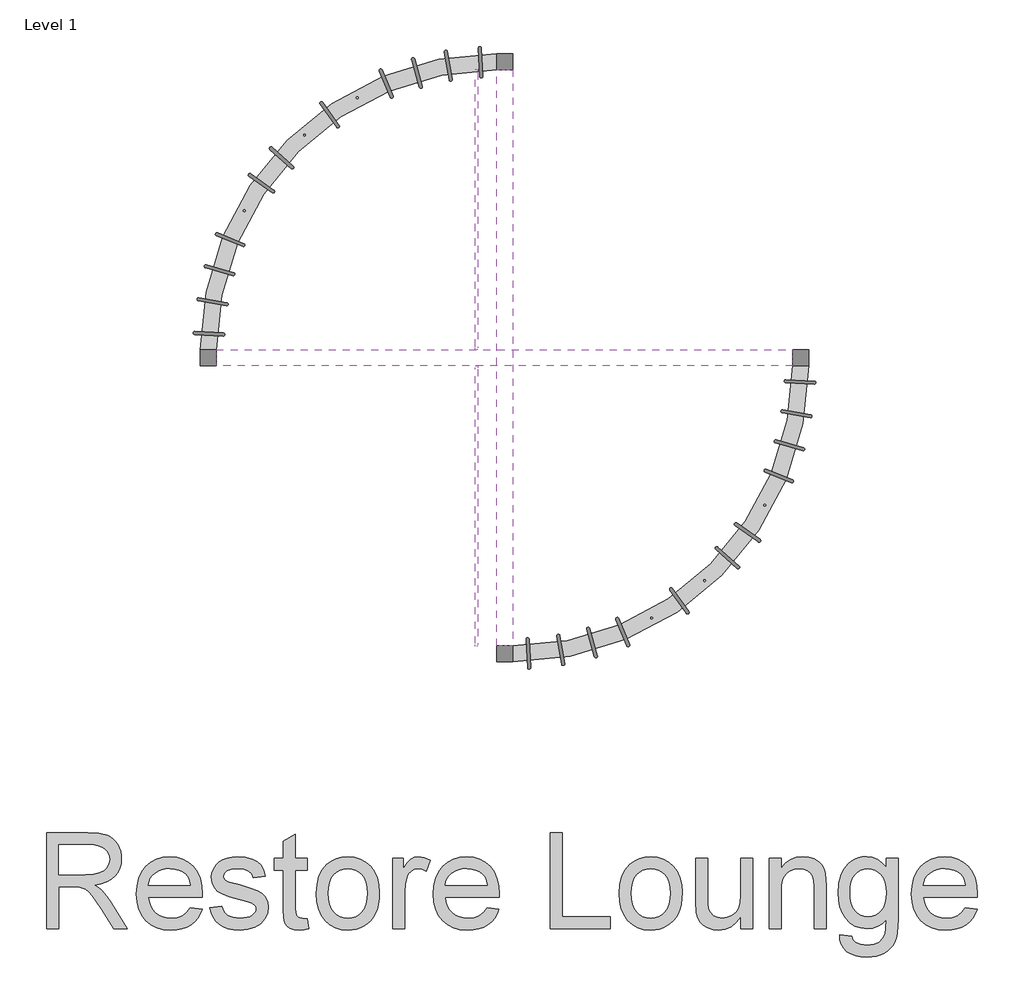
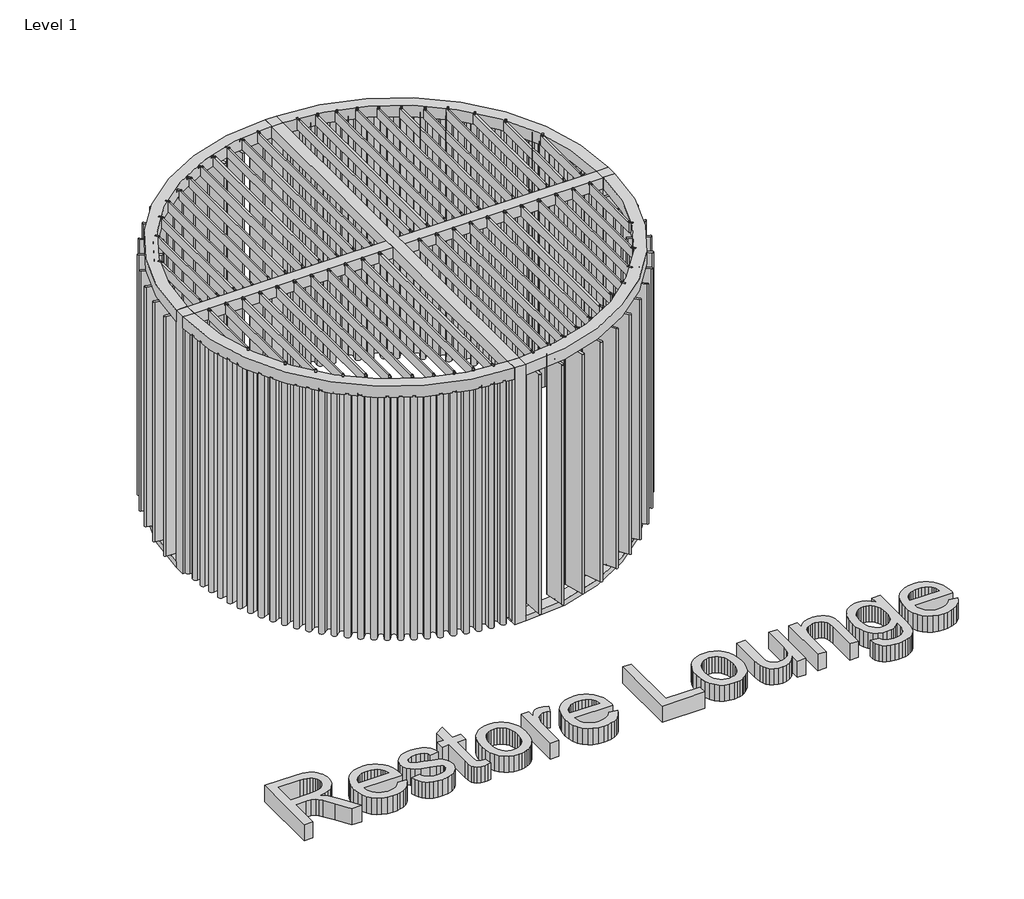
# One storey: 12 furniture elements, 1 proxy.
"""IFC4 building model written with IfcOpenShell, lengths in millimetres."""

from ifc_helpers import new_model, si_unit, origin, origin_with_axes, place, context, project, spatial, polyline, outline, extrude, transform, mapped, element, save
from components import furniture_144w_half_round_df257ffa, furniture_144w_half_round_812f437a, furniture_144w_half_round_42c44f93, furniture_144w_half_round_7459aa78, furniture_72_in_radius_f867d50b, furniture_72_in_radius_closed_drapery_8a0c59e8, haworth_pergola_panel_post_3_way_connector_7bc44f38, haworth_pergola_panel_post_3_way_connector_a8890e0e, haworth_pergola_panel_straighthorizontaltiles_232f749c

model = new_model("IFC4")

# Units and contexts
model_context = context("Model", 3, world=origin())
ifc_project = project(units=[si_unit("LENGTHUNIT", "METRE", prefix="MILLI")], contexts=[model_context])

# Site, building, storey
site = spatial("IfcSite", under=ifc_project)
building = spatial("IfcBuilding", under=site)
storey = spatial("IfcBuildingStorey", under=building, Name="Level 1", Elevation=0.0)

# Proxy
placement = place(None, origin())
element("IfcBuildingElementProxy", 1, Name="24\" Arial", ObjectType="24\" Arial", at=placement, inside=storey, context=model_context, shape_type="SweptSolid", body=[
    extrude(outline(polyline([(-2907.6639762, -3624.0191009), (-2907.6639762, -3014.8849128), (-2645.1830577, -3014.8849128), (-2574.6366635, -3018.9931481), (-2523.3116058, -3031.3178541), (-2503.5047064, -3041.1144153), (-2485.798398, -3054.0711575), (-2470.1926805, -3070.1880808), (-2456.6875539, -3089.4651851), (-2445.7895767, -3110.8661169), (-2438.0053073, -3133.3545228), (-2433.3347456, -3156.9304027), (-2431.7778917, -3181.5937567), (-2434.3571571, -3212.8795489), (-2442.0949533, -3241.6000177), (-2454.9912803, -3267.755163), (-2473.0461381, -3291.344985), (-2496.4918929, -3311.6166168), (-2525.5609111, -3327.8171919), (-2560.2531925, -3339.9467103), (-2600.5687373, -3348.0051719), (-2575.4731821, -3364.4009346), (-2557.2928465, -3380.5736258), (-2526.1000008, -3417.5663331), (-2495.5763699, -3458.9461153), (-2394.0044337, -3624.0191009), (-2482.4895026, -3624.0191009), (-2561.7542785, -3497.7605741), (-2619.0093231, -3414.1830805), (-2640.2940718, -3389.812508), (-2659.2365686, -3374.6994069), (-2695.4485254, -3360.1997528), (-2739.6167026, -3357.5228936), (-2831.5222027, -3357.5228936), (-2831.5222027, -3624.0191009), (-2907.6639762, -3624.0191009)]), holes=[polyline([(-2831.5222027, -3281.3811201), (-2661.0954987, -3281.3811201), (-2612.1498713, -3278.6856715), (-2574.171931, -3270.599326), (-2545.5815874, -3256.5829936), (-2524.7987498, -3236.0975848), (-2512.1394364, -3211.3180477), (-2507.9196652, -3184.4193304), (-2509.931957, -3164.9470384), (-2515.9688322, -3147.2779086), (-2526.0302909, -3131.4119409), (-2540.1163331, -3117.3491353), (-2558.5522716, -3105.8330639), (-2581.663419, -3097.6072985), (-2609.4497755, -3092.6718393), (-2641.9113409, -3091.0266863), (-2831.5222027, -3091.0266863), (-2831.5222027, -3281.3811201)])]), origin_with_axes(), (0.0, 0.0, 1.0), 152.4),
    extrude(outline(polyline([(-1994.8549804, -3490.7709972), (-1920.2003509, -3500.2887189), (-1931.6467125, -3530.1896083), (-1947.0990682, -3556.5399413), (-1966.5574182, -3579.3397179), (-1990.0217623, -3598.5889383), (-2017.2504398, -3613.8786376), (-2048.0017896, -3624.7998515), (-2082.2758118, -3631.3525798), (-2120.0725064, -3633.5368226), (-2167.3172128, -3629.767842), (-2209.412683, -3618.4609001), (-2246.3589171, -3599.6159971), (-2278.1559151, -3573.2331328), (-2303.7254974, -3540.0465847), (-2321.9894849, -3500.79063), (-2332.9478773, -3455.4652689), (-2336.6006748, -3404.0705012), (-2332.9106987, -3350.9329867), (-2321.8407705, -3304.0972449), (-2303.39089, -3263.5632758), (-2277.5610574, -3229.3310796), (-2245.8477114, -3202.1349334), (-2209.7472904, -3182.7091147), (-2169.2597946, -3171.0536235), (-2124.385224, -3167.1684598), (-2080.9559715, -3171.0443289), (-2041.6814275, -3182.6719361), (-2006.5615922, -3202.0512816), (-1975.5964654, -3229.1823652), (-1950.3196645, -3263.3402042), (-1932.2648067, -3303.7998161), (-1921.431892, -3350.5612007), (-1917.8209205, -3403.624358), (-1918.2670637, -3424.1469454), (-2260.4589013, -3424.1469454), (-2256.0485898, -3454.5311565), (-2247.2790875, -3481.1417397), (-2234.1503942, -3503.978695), (-2216.6625101, -3523.0420223), (-2195.7820787, -3538.0714715), (-2172.4757436, -3548.8067924), (-2146.7435048, -3555.2479849), (-2118.5853624, -3557.3950491), (-2078.060688, -3553.4169388), (-2043.9307328, -3541.4826081), (-2016.195497, -3520.8484849), (-1994.8549804, -3490.7709972)]), holes=[polyline([(-2260.4589013, -3348.0051719), (-1993.962694, -3348.0051719), (-2004.2611663, -3307.7779263), (-2013.1189678, -3291.9584319), (-2024.4491463, -3279.0016896), (-2045.2133946, -3263.3866775), (-2068.8403951, -3252.2330974), (-2095.3301478, -3245.5409493), (-2124.6826528, -3243.3102333), (-2151.4558924, -3245.0901588), (-2176.0077106, -3250.4299353), (-2198.3381074, -3259.3295627), (-2218.4470829, -3271.7890412), (-2235.3215201, -3287.2321023), (-2247.9483023, -3305.0824778), (-2256.3274293, -3325.3401677), (-2260.4589013, -3348.0051719)])]), origin_with_axes(), (0.0, 0.0, 1.0), 152.4),
    extrude(outline(polyline([(-1870.232312, -3490.7709972), (-1794.0905385, -3481.2532755), (-1789.4896867, -3498.6156819), (-1782.0818506, -3513.8217295), (-1771.8670301, -3526.8714182), (-1758.8452254, -3537.7647481), (-1742.9792577, -3546.3530048), (-1724.2319484, -3552.4874738), (-1678.0933054, -3557.3950491), (-1632.5123414, -3552.8964384), (-1614.7967383, -3547.2731751), (-1600.4643879, -3539.4006065), (-1581.5033017, -3519.8446627), (-1576.7630301, -3508.8955649), (-1575.1829396, -3497.1657165), (-1576.7723248, -3486.8858335), (-1581.5404803, -3477.7584871), (-1600.6131023, -3462.9614042), (-1629.1290887, -3453.2949681), (-1678.9855918, -3441.2491016), (-1748.4723959, -3421.1540681), (-1793.6443953, -3403.996144), (-1822.6622929, -3385.2767187), (-1843.6867914, -3360.4971816), (-1856.4576406, -3331.2376231), (-1860.7145903, -3299.0781338), (-1857.2941591, -3269.5769145), (-1847.0328654, -3242.3435897), (-1830.8601742, -3218.456339), (-1809.7055506, -3198.9933417), (-1788.6810521, -3186.7429929), (-1761.299013, -3176.4631099), (-1729.6414348, -3169.4921223), (-1695.7903192, -3167.1684598), (-1646.2312449, -3170.9049091), (-1603.1412471, -3182.1142571), (-1568.4907916, -3199.6997351), (-1544.2503441, -3222.5645743), (-1528.1891888, -3252.4004011), (-1518.0766095, -3290.8988418), (-1594.218383, -3300.4165634), (-1603.8290512, -3276.4549555), (-1622.8459053, -3258.404745), (-1651.4548383, -3247.0838612), (-1689.8417431, -3243.3102333), (-1733.5637771, -3246.9165575), (-1762.7117998, -3257.7355302), (-1779.1075626, -3273.3505424), (-1784.5728168, -3291.344985), (-1782.3049222, -3303.0562441), (-1775.5012383, -3313.5034308), (-1763.8643364, -3322.8352595), (-1747.0967877, -3330.3081581), (-1681.5137366, -3346.5180279), (-1614.2390593, -3366.4085791), (-1569.754864, -3382.3581986), (-1540.2350553, -3399.4975334), (-1517.8535379, -3422.9572302), (-1503.7442591, -3452.8116463), (-1499.0411661, -3489.1351388), (-1504.5621883, -3526.6855252), (-1521.1252547, -3562.0051955), (-1548.0983293, -3592.3243441), (-1584.8493757, -3614.8731652), (-1629.2406245, -3628.8709082), (-1679.1343062, -3633.5368226), (-1720.1144184, -3631.2875173), (-1755.9081159, -3624.5396013), (-1786.5153987, -3613.2930747), (-1811.9362667, -3597.5479374), (-1832.700515, -3577.3785468), (-1849.3379386, -3552.8592598), (-1861.8485376, -3523.9900766), (-1870.232312, -3490.7709972)])), origin_with_axes(), (0.0, 0.0, 1.0), 152.4),
    extrude(outline(polyline([(-1251.5804022, -3560.5180515), (-1242.0626805, -3626.2498169), (-1272.2145254, -3631.7150712), (-1299.0202962, -3633.5368226), (-1335.5668604, -3630.3766416), (-1362.8187744, -3620.8960985), (-1382.0772894, -3606.2849085), (-1394.6436563, -3587.7327869), (-1401.558876, -3555.8707264), (-1403.8639492, -3501.3297197), (-1403.8639492, -3252.827955), (-1460.9702794, -3252.827955), (-1460.9702794, -3176.6861815), (-1403.8639492, -3176.6861815), (-1403.8639492, -3067.9759541), (-1327.7221757, -3023.2129192), (-1327.7221757, -3176.6861815), (-1251.5804022, -3176.6861815), (-1251.5804022, -3252.827955), (-1327.7221757, -3252.827955), (-1327.7221757, -3499.0990037), (-1323.7068869, -3538.3596057), (-1310.6943767, -3552.2644022), (-1299.7081003, -3556.1123874), (-1284.7437137, -3557.3950491), (-1251.5804022, -3560.5180515)])), origin_with_axes(), (0.0, 0.0, 1.0), 152.4),
    extrude(outline(polyline([(-1194.474072, -3400.3526412), (-1190.3565421, -3342.4190872), (-1178.0039521, -3292.4975216), (-1157.4163022, -3250.5879443), (-1128.5935922, -3216.6903555), (-1099.5756947, -3195.0245261), (-1067.5463305, -3179.5489337), (-1032.5054996, -3170.2635783), (-994.4532022, -3167.1684598), (-952.4460311, -3170.9374404), (-914.4634435, -3182.2443822), (-880.5054394, -3201.0892853), (-850.5720188, -3227.4721496), (-826.1410311, -3260.5006886), (-808.6903255, -3299.2826161), (-798.2199022, -3343.817932), (-794.7297611, -3394.1066363), (-796.272673, -3434.863677), (-800.9014087, -3471.0291604), (-808.6159683, -3502.6030868), (-819.4163517, -3529.585456), (-833.1677865, -3552.8917911), (-849.7355003, -3573.4376151), (-869.1194931, -3591.2229281), (-891.3197648, -3606.2477299), (-915.471913, -3618.186708), (-940.7115354, -3626.7145494), (-967.0386317, -3631.8312543), (-994.4532022, -3633.5368226), (-1037.0738201, -3629.7817839), (-1075.4096044, -3618.516668), (-1109.460555, -3599.7414749), (-1139.2266719, -3573.4562044), (-1163.3974095, -3540.1069999), (-1180.662222, -3500.1400045), (-1191.0211095, -3453.5552183), (-1194.474072, -3400.3526412)]), holes=[polyline([(-1118.3322985, -3400.2039268), (-1116.1294665, -3437.1362189), (-1109.5209702, -3469.1144625), (-1098.5068099, -3496.1386577), (-1083.0869854, -3518.2088043), (-1064.3303815, -3535.3527864), (-1043.305883, -3547.5984879), (-1020.0134899, -3554.9459088), (-994.4532022, -3557.3950491), (-969.0230395, -3554.9319668), (-945.8235929, -3547.54272), (-924.8548623, -3535.2273086), (-906.1168477, -3517.9857327), (-890.6970232, -3495.6971618), (-879.6828629, -3468.2407654), (-873.0743667, -3435.6165436), (-870.8715346, -3397.8244964), (-873.0883086, -3362.0633301), (-879.7386308, -3330.921605), (-890.822501, -3304.399321), (-906.3399193, -3282.4964781), (-925.1476438, -3265.352496), (-946.1024324, -3253.1067945), (-969.2042852, -3245.7593736), (-994.4532022, -3243.3102333), (-1020.0134899, -3245.750079), (-1043.305883, -3253.0696159), (-1064.3303815, -3265.2688441), (-1083.0869854, -3282.3477637), (-1098.5068099, -3304.3528478), (-1109.5209702, -3331.3305696), (-1116.1294665, -3363.2809293), (-1118.3322985, -3400.2039268)])]), origin_with_axes(), (0.0, 0.0, 1.0), 152.4),
    extrude(outline(polyline([(-709.0702659, -3624.0191009), (-709.0702659, -3176.6861815), (-642.4462141, -3176.6861815), (-642.4462141, -3242.8640901), (-617.8339806, -3204.4957745), (-595.1550344, -3181.8911855), (-572.401731, -3170.8491412), (-547.566426, -3167.1684598), (-509.6442536, -3173.0426786), (-471.1272236, -3190.6653352), (-496.5573863, -3258.9252455), (-523.3259785, -3247.2139863), (-550.0945708, -3243.3102333), (-572.8292849, -3247.0652719), (-593.14739, -3258.3303878), (-609.561742, -3276.2504732), (-620.585197, -3299.9704202), (-629.8426685, -3342.502739), (-632.9284924, -3388.9016323), (-632.9284924, -3624.0191009), (-709.0702659, -3624.0191009)])), origin_with_axes(), (0.0, 0.0, 1.0), 152.4),
    extrude(outline(polyline([(-110.3460858, -3490.7709972), (-35.6914563, -3500.2887189), (-47.1378179, -3530.1896083), (-62.5901737, -3556.5399413), (-82.0485236, -3579.3397179), (-105.5128678, -3598.5889383), (-132.7415452, -3613.8786376), (-163.492895, -3624.7998515), (-197.7669172, -3631.3525798), (-235.5636118, -3633.5368226), (-282.8083182, -3629.767842), (-324.9037885, -3618.4609001), (-361.8500226, -3599.6159971), (-393.6470205, -3573.2331328), (-419.2166029, -3540.0465847), (-437.4805903, -3500.79063), (-448.4389828, -3455.4652689), (-452.0917803, -3404.0705012), (-448.4018042, -3350.9329867), (-437.3318759, -3304.0972449), (-418.8819955, -3263.5632758), (-393.0521629, -3229.3310796), (-361.3388168, -3202.1349334), (-325.2383959, -3182.7091147), (-284.7509001, -3171.0536235), (-239.8763295, -3167.1684598), (-196.4470769, -3171.0443289), (-157.172533, -3182.6719361), (-122.0526976, -3202.0512816), (-91.0875709, -3229.1823652), (-65.8107699, -3263.3402042), (-47.7559121, -3303.7998161), (-36.9229975, -3350.5612007), (-33.3120259, -3403.624358), (-33.7581691, -3424.1469454), (-375.9500067, -3424.1469454), (-371.5396953, -3454.5311565), (-362.7701929, -3481.1417397), (-349.6414997, -3503.978695), (-332.1536155, -3523.0420223), (-311.2731841, -3538.0714715), (-287.966849, -3548.8067924), (-262.2346102, -3555.2479849), (-234.0764678, -3557.3950491), (-193.5517934, -3553.4169388), (-159.4218383, -3541.4826081), (-131.6866024, -3520.8484849), (-110.3460858, -3490.7709972)]), holes=[polyline([(-375.9500067, -3348.0051719), (-109.4537994, -3348.0051719), (-119.7522717, -3307.7779263), (-128.6100733, -3291.9584319), (-139.9402517, -3279.0016896), (-160.7045, -3263.3866775), (-184.3315005, -3252.2330974), (-210.8212533, -3245.5409493), (-240.1737583, -3243.3102333), (-266.9469978, -3245.0901588), (-291.498816, -3250.4299353), (-313.8292129, -3259.3295627), (-333.9381883, -3271.7890412), (-350.8126256, -3287.2321023), (-363.4394077, -3305.0824778), (-371.8185348, -3325.3401677), (-375.9500067, -3348.0051719)])]), origin_with_axes(), (0.0, 0.0, 1.0), 152.4),
    extrude(outline(polyline([(290.2905115, -3624.0191009), (290.2905115, -3014.8849128), (366.4322851, -3014.8849128), (366.4322851, -3547.8773274), (670.9993791, -3547.8773274), (670.9993791, -3624.0191009), (290.2905115, -3624.0191009)])), origin_with_axes(), (0.0, 0.0, 1.0), 152.4),
    extrude(outline(polyline([(728.1057093, -3400.3526412), (732.2232392, -3342.4190872), (744.5758292, -3292.4975216), (765.1634792, -3250.5879443), (793.9861891, -3216.6903555), (823.0040867, -3195.0245261), (855.0334509, -3179.5489337), (890.0742817, -3170.2635783), (928.1265791, -3167.1684598), (970.1337502, -3170.9374404), (1008.1163378, -3182.2443822), (1042.0743419, -3201.0892853), (1072.0077625, -3227.4721496), (1096.4387503, -3260.5006886), (1113.8894558, -3299.2826161), (1124.3598791, -3343.817932), (1127.8500202, -3394.1066363), (1126.3071083, -3434.863677), (1121.6783726, -3471.0291604), (1113.963813, -3502.6030868), (1103.1634296, -3529.585456), (1089.4119948, -3552.8917911), (1072.844281, -3573.4376151), (1053.4602882, -3591.2229281), (1031.2600165, -3606.2477299), (1007.1078683, -3618.186708), (981.8682459, -3626.7145494), (955.5411496, -3631.8312543), (928.1265791, -3633.5368226), (885.5059612, -3629.7817839), (847.1701769, -3618.516668), (813.1192263, -3599.7414749), (783.3531094, -3573.4562044), (759.1823718, -3540.1069999), (741.9175593, -3500.1400045), (731.5586718, -3453.5552183), (728.1057093, -3400.3526412)]), holes=[polyline([(804.2474828, -3400.2039268), (806.4503148, -3437.1362189), (813.0588111, -3469.1144625), (824.0729714, -3496.1386577), (839.4927959, -3518.2088043), (858.2493998, -3535.3527864), (879.2738983, -3547.5984879), (902.5662914, -3554.9459088), (928.1265791, -3557.3950491), (953.5567418, -3554.9319668), (976.7561884, -3547.54272), (997.724919, -3535.2273086), (1016.4629336, -3517.9857327), (1031.8827581, -3495.6971618), (1042.8969184, -3468.2407654), (1049.5054146, -3435.6165436), (1051.7082467, -3397.8244964), (1049.4914727, -3362.0633301), (1042.8411505, -3330.921605), (1031.7572803, -3304.399321), (1016.239862, -3282.4964781), (997.4321375, -3265.352496), (976.4773489, -3253.1067945), (953.3754961, -3245.7593736), (928.1265791, -3243.3102333), (902.5662914, -3245.750079), (879.2738983, -3253.0696159), (858.2493998, -3265.2688441), (839.4927959, -3282.3477637), (824.0729714, -3304.3528478), (813.0588111, -3331.3305696), (806.4503148, -3363.2809293), (804.2474828, -3400.2039268)])]), origin_with_axes(), (0.0, 0.0, 1.0), 152.4),
    extrude(outline(polyline([(1499.0411661, -3624.0191009), (1499.0411661, -3547.1337554), (1471.4918233, -3584.9350973), (1439.4066912, -3611.9360558), (1402.7857698, -3628.1366309), (1361.6290592, -3633.5368226), (1324.5434054, -3629.7446053), (1290.0230749, -3618.3679536), (1261.0609453, -3601.2657975), (1240.6498937, -3580.2970669), (1226.9124009, -3554.8297256), (1217.9709475, -3524.2317376), (1213.5095154, -3453.4436825), (1213.5095154, -3176.6861815), (1289.6512889, -3176.6861815), (1289.6512889, -3417.6035117), (1290.8038256, -3465.7869778), (1294.2614354, -3495.2324293), (1305.3592476, -3521.1273244), (1324.3761017, -3540.8133933), (1350.0479252, -3553.2496351), (1381.1106458, -3557.3950491), (1413.9579392, -3553.1566886), (1444.6860524, -3540.4416073), (1470.0232685, -3520.420931), (1486.6978708, -3494.2657857), (1495.9553423, -3458.4442042), (1499.0411661, -3409.4242197), (1499.0411661, -3176.6861815), (1575.1829396, -3176.6861815), (1575.1829396, -3624.0191009), (1499.0411661, -3624.0191009)])), origin_with_axes(), (0.0, 0.0, 1.0), 152.4),
    extrude(outline(polyline([(1679.8778782, -3624.0191009), (1679.8778782, -3176.6861815), (1756.0196517, -3176.6861815), (1756.0196517, -3239.1462301), (1782.4722259, -3207.6559556), (1814.2413399, -3185.1629024), (1851.3269937, -3171.6670704), (1893.7291874, -3167.1684598), (1931.2609845, -3170.7933733), (1965.6326005, -3181.6681139), (1994.2973014, -3198.4356627), (2014.708353, -3219.7390007), (2028.5573816, -3245.52236), (2037.5360136, -3275.7299728), (2041.5513024, -3349.3436015), (2041.5513024, -3624.0191009), (1965.4095289, -3624.0191009), (1965.4095289, -3359.6048952), (1963.2159915, -3320.2327574), (1956.6353792, -3292.2372714), (1944.4965662, -3272.1794165), (1925.6284265, -3256.6201722), (1901.443747, -3246.637718), (1873.3553144, -3243.3102333), (1850.2348723, -3245.178458), (1828.7595833, -3250.783132), (1808.9294474, -3260.1242553), (1790.7444645, -3273.201828), (1775.5523589, -3291.502994), (1764.7008549, -3316.5148974), (1758.1899525, -3348.2375381), (1756.0196517, -3386.6709163), (1756.0196517, -3624.0191009), (1679.8778782, -3624.0191009)])), origin_with_axes(), (0.0, 0.0, 1.0), 152.4),
    extrude(outline(polyline([(2127.2107976, -3662.0899876), (2203.3525712, -3671.6077093), (2211.7549348, -3695.4020136), (2228.0391618, -3711.7605977), (2260.0499367, -3724.475679), (2301.9502193, -3728.7140395), (2346.6388969, -3723.918), (2364.6891074, -3717.9229507), (2379.8765656, -3709.5298817), (2402.9272978, -3686.4791495), (2417.055166, -3655.6952684), (2421.1819906, -3622.9409215), (2422.26017, -3566.9127708), (2396.9229539, -3591.8967902), (2368.6486283, -3609.7425184), (2337.4371933, -3620.4499553), (2303.2886489, -3624.0191009), (2261.541728, -3619.8643923), (2224.7860343, -3607.4002665), (2193.0215676, -3586.6267236), (2166.248328, -3557.5437635), (2145.0054052, -3522.651647), (2129.831889, -3484.4506352), (2120.7277792, -3442.9407279), (2117.6930759, -3398.1219252), (2123.1397409, -3336.6471095), (2139.4797357, -3280.1170477), (2151.5906648, -3254.6264698), (2166.1367922, -3232.2124211), (2183.1181179, -3212.8749016), (2202.5346419, -3196.6139113), (2224.0749935, -3183.7315262), (2247.4278019, -3174.5298227), (2272.593067, -3169.0088005), (2299.5707889, -3167.1684598), (2335.1785933, -3171.332463), (2367.4960917, -3183.8244727), (2396.5232839, -3204.6444889), (2422.26017, -3233.7925116), (2422.26017, -3176.6861815), (2498.4019435, -3176.6861815), (2498.4019435, -3562.8974819), (2493.1969395, -3652.0703549), (2486.6906844, -3685.2383137), (2477.5819273, -3710.7939541), (2465.6522439, -3731.4048407), (2450.68321, -3749.738538), (2432.6748254, -3765.795046), (2411.6270903, -3779.5743648), (2387.7537816, -3790.6349984), (2361.2686761, -3798.5354509), (2332.171774, -3803.2757225), (2300.4630753, -3804.855813), (2263.1589971, -3802.6297443), (2229.6192523, -3795.9515382), (2199.8438407, -3784.8211947), (2173.8327625, -3769.2387139), (2152.8222059, -3749.1855063), (2138.0483596, -3724.6429827), (2129.5112235, -3695.6111432), (2127.2107976, -3662.0899876)]), holes=[polyline([(2193.8348495, -3392.9169211), (2195.8657305, -3430.5649013), (2201.9583736, -3462.7569219), (2212.1127789, -3489.4929828), (2226.3289462, -3510.7730842), (2243.612348, -3527.0061906), (2262.9684568, -3538.6012666), (2284.3972726, -3545.5583122), (2307.8987953, -3547.8773274), (2331.1679518, -3545.5722542), (2352.4945265, -3538.6570345), (2371.8785192, -3527.1316684), (2389.3199301, -3510.9961558), (2403.7312851, -3489.9251841), (2414.02511, -3463.5934404), (2420.201405, -3432.0009247), (2422.26017, -3395.1476371), (2420.1409898, -3359.8326141), (2413.7834491, -3329.1370322), (2403.187548, -3303.0608914), (2388.3532865, -3281.6041917), (2370.5354423, -3264.8505849), (2350.9887931, -3252.8837229), (2329.7133391, -3245.7036057), (2306.7090801, -3243.3102333), (2284.0905491, -3245.6664271), (2263.228707, -3252.7350085), (2244.1235538, -3264.5159775), (2226.7750894, -3281.0093341), (2212.3637344, -3302.140721), (2202.0699094, -3327.8357812), (2195.8936145, -3358.0945146), (2193.8348495, -3392.9169211)])]), origin_with_axes(), (0.0, 0.0, 1.0), 152.4),
    extrude(outline(polyline([(2925.8071332, -3490.7709972), (3000.4617627, -3500.2887189), (2989.0154011, -3530.1896083), (2973.5630453, -3556.5399413), (2954.1046953, -3579.3397179), (2930.6403512, -3598.5889383), (2903.4116738, -3613.8786376), (2872.660324, -3624.7998515), (2838.3863018, -3631.3525798), (2800.5896072, -3633.5368226), (2753.3449008, -3629.767842), (2711.2494305, -3618.4609001), (2674.3031964, -3599.6159971), (2642.5061985, -3573.2331328), (2616.9366161, -3540.0465847), (2598.6726287, -3500.79063), (2587.7142362, -3455.4652689), (2584.0614387, -3404.0705012), (2587.7514148, -3350.9329867), (2598.8213431, -3304.0972449), (2617.2712235, -3263.5632758), (2643.1010561, -3229.3310796), (2674.8144022, -3202.1349334), (2710.9148231, -3182.7091147), (2751.4023189, -3171.0536235), (2796.2768895, -3167.1684598), (2839.7061421, -3171.0443289), (2878.980686, -3182.6719361), (2914.1005214, -3202.0512816), (2945.0656481, -3229.1823652), (2970.342449, -3263.3402042), (2988.3973068, -3303.7998161), (2999.2302215, -3350.5612007), (3002.8411931, -3403.624358), (3002.3950499, -3424.1469454), (2660.2032123, -3424.1469454), (2664.6135237, -3454.5311565), (2673.3830261, -3481.1417397), (2686.5117193, -3503.978695), (2703.9996035, -3523.0420223), (2724.8800349, -3538.0714715), (2748.18637, -3548.8067924), (2773.9186087, -3555.2479849), (2802.0767512, -3557.3950491), (2842.6014256, -3553.4169388), (2876.7313807, -3541.4826081), (2904.4666166, -3520.8484849), (2925.8071332, -3490.7709972)]), holes=[polyline([(2660.2032123, -3348.0051719), (2926.6994196, -3348.0051719), (2916.4009473, -3307.7779263), (2907.5431457, -3291.9584319), (2896.2129673, -3279.0016896), (2875.448719, -3263.3866775), (2851.8217185, -3252.2330974), (2825.3319657, -3245.5409493), (2795.9794607, -3243.3102333), (2769.2062212, -3245.0901588), (2744.6544029, -3250.4299353), (2722.3240061, -3259.3295627), (2702.2150306, -3271.7890412), (2685.3405934, -3287.2321023), (2672.7138113, -3305.0824778), (2664.3346842, -3325.3401677), (2660.2032123, -3348.0051719)])]), origin_with_axes(), (0.0, 0.0, 1.0), 152.4),
])

# Furniture
furniture_144w_half_round_shape = furniture_144w_half_round_df257ffa(model_context)
furniture_144w_half_round_2_shape = furniture_144w_half_round_812f437a(model_context)
element("IfcFurniture", 2, ObjectType="Haworth_Pergola_Ceiling_Slat_Radial : 144w - Half Round", at=placement, inside=storey, context=model_context, shape_type="MappedRepresentation", body=[
    mapped(furniture_144w_half_round_shape, transform((-38.1, 2303.907, 0.0), x_axis=(1.0, 0.0, 0.0), y_axis=(0.0, 1.0, 0.0), z_axis=(0.0, 0.0, 1.0))),
    mapped(furniture_144w_half_round_2_shape, transform((-38.1, 2303.907, 0.0), x_axis=(1.0, 0.0, 0.0), y_axis=(0.0, 1.0, 0.0), z_axis=(0.0, 0.0, 1.0))),
])
furniture_144w_half_round_3_shape = furniture_144w_half_round_42c44f93(model_context)
furniture_144w_half_round_4_shape = furniture_144w_half_round_7459aa78(model_context)
element("IfcFurniture", 3, ObjectType="Haworth_Pergola_Ceiling_Slat_Radial : 144w - Half Round", at=placement, inside=storey, context=model_context, shape_type="MappedRepresentation", body=[
    mapped(furniture_144w_half_round_3_shape, transform((-38.1, -2303.907, 0.0), x_axis=(1.0, 0.0, 0.0), y_axis=(0.0, 1.0, 0.0), z_axis=(0.0, 0.0, 1.0))),
    mapped(furniture_144w_half_round_4_shape, transform((-38.1, -2303.907, 0.0), x_axis=(1.0, 0.0, 0.0), y_axis=(0.0, 1.0, 0.0), z_axis=(0.0, 0.0, 1.0))),
])
furniture_72_in_radius_shape = furniture_72_in_radius_f867d50b(model_context)
element("IfcFurniture", 4, ObjectType="Haworth_Pergola_Slat_Painted_Radial : 72 in. radius", at=placement, inside=storey, context=model_context, shape_type="MappedRepresentation", body=[
    mapped(furniture_72_in_radius_shape, transform((-88.9, 50.8, 0.0), x_axis=(1.0, 0.0, 0.0), y_axis=(0.0, 1.0, 0.0), z_axis=(0.0, 0.0, 1.0))),
])
element("IfcFurniture", 5, ObjectType="Haworth_Pergola_Slat_Painted_Radial : 72 in. radius", at=placement, inside=storey, context=model_context, shape_type="MappedRepresentation", body=[
    mapped(furniture_72_in_radius_shape, transform((88.9, -50.8, 0.0), x_axis=(-1.0, 0.0, 0.0), y_axis=(0.0, -1.0, 0.0), z_axis=(0.0, 0.0, 1.0))),
])
furniture_72_in_radius_closed_drapery_shape = furniture_72_in_radius_closed_drapery_8a0c59e8(model_context)
element("IfcFurniture", 6, ObjectType="Haworth_Pergola_Drapery_Radial : 72 in. radius - Closed Drapery", at=placement, inside=storey, context=model_context, shape_type="MappedRepresentation", body=[
    mapped(furniture_72_in_radius_closed_drapery_shape, transform((-50.8, -88.9, 0.0), x_axis=(0.0, 1.0, 0.0), y_axis=(-1.0, 0.0, 0.0), z_axis=(0.0, 0.0, 1.0))),
])
element("IfcFurniture", 7, ObjectType="Haworth_Pergola_Drapery_Radial : 72 in. radius - Closed Drapery", at=placement, inside=storey, context=model_context, shape_type="MappedRepresentation", body=[
    mapped(furniture_72_in_radius_closed_drapery_shape, transform((50.8, 88.9, 0.0), x_axis=(0.0, -1.0, 0.0), y_axis=(1.0, 0.0, 0.0), z_axis=(0.0, 0.0, 1.0))),
])
haworth_pergola_panel_post_3_way_connector_shape = haworth_pergola_panel_post_3_way_connector_7bc44f38(model_context)
element("IfcFurniture", 8, ObjectType="Haworth_Pergola_Panel_Post : 3-Way Connector", at=placement, inside=storey, context=model_context, shape_type="MappedRepresentation", body=[
    mapped(haworth_pergola_panel_post_3_way_connector_shape, transform((-38.1, -1880.0004562, 0.0), x_axis=(1.0, 0.0, 0.0), y_axis=(0.0, 1.0, 0.0), z_axis=(0.0, 0.0, 1.0))),
])
element("IfcFurniture", 9, ObjectType="Haworth_Pergola_Panel_Post : 3-Way Connector", at=placement, inside=storey, context=model_context, shape_type="MappedRepresentation", body=[
    mapped(haworth_pergola_panel_post_3_way_connector_shape, transform((1879.6, -38.1, 0.0), x_axis=(0.0, 1.0, 0.0), y_axis=(-1.0, 0.0, 0.0), z_axis=(0.0, 0.0, 1.0))),
])
haworth_pergola_panel_post_3_way_connector_2_shape = haworth_pergola_panel_post_3_way_connector_a8890e0e(model_context)
element("IfcFurniture", 10, ObjectType="Haworth_Pergola_Panel_Post : 3-Way Connector", at=placement, inside=storey, context=model_context, shape_type="MappedRepresentation", body=[
    mapped(haworth_pergola_panel_post_3_way_connector_2_shape, transform((-38.1, 1880.0004562, 0.0), x_axis=(1.0, 0.0, 0.0), y_axis=(0.0, 1.0, 0.0), z_axis=(0.0, 0.0, 1.0))),
])
element("IfcFurniture", 11, ObjectType="Haworth_Pergola_Panel_Post : 3-Way Connector", at=placement, inside=storey, context=model_context, shape_type="MappedRepresentation", body=[
    mapped(haworth_pergola_panel_post_3_way_connector_2_shape, transform((-1879.6, -38.1, 0.0), x_axis=(0.0, 1.0, 0.0), y_axis=(-1.0, 0.0, 0.0), z_axis=(0.0, 0.0, 1.0))),
])
haworth_pergola_panel_straighthorizontaltiles_shape = haworth_pergola_panel_straighthorizontaltiles_232f749c(model_context)
element("IfcFurniture", 12, ObjectType="Haworth_Pergola_Panel_StraightHorizontalTiles : Horizontal Tiles (28h 48h 16h)- 96h 144w", at=placement, inside=storey, context=model_context, shape_type="MappedRepresentation", body=[
    mapped(haworth_pergola_panel_straighthorizontaltiles_shape, transform((-38.1, 0.0, 0.0), x_axis=(1.0, 0.0, 0.0), y_axis=(0.0, 1.0, 0.0), z_axis=(0.0, 0.0, 1.0))),
])
element("IfcFurniture", 13, ObjectType="Haworth_Pergola_Panel_StraightHorizontalTiles : Horizontal Tiles (28h 48h 16h)- 96h 144w", at=placement, inside=storey, context=model_context, shape_type="MappedRepresentation", body=[
    mapped(haworth_pergola_panel_straighthorizontaltiles_shape, transform((0.0, -38.1, 0.0), x_axis=(0.0, 1.0, 0.0), y_axis=(-1.0, 0.0, 0.0), z_axis=(0.0, 0.0, 1.0))),
])

save(model, "model.ifc")
